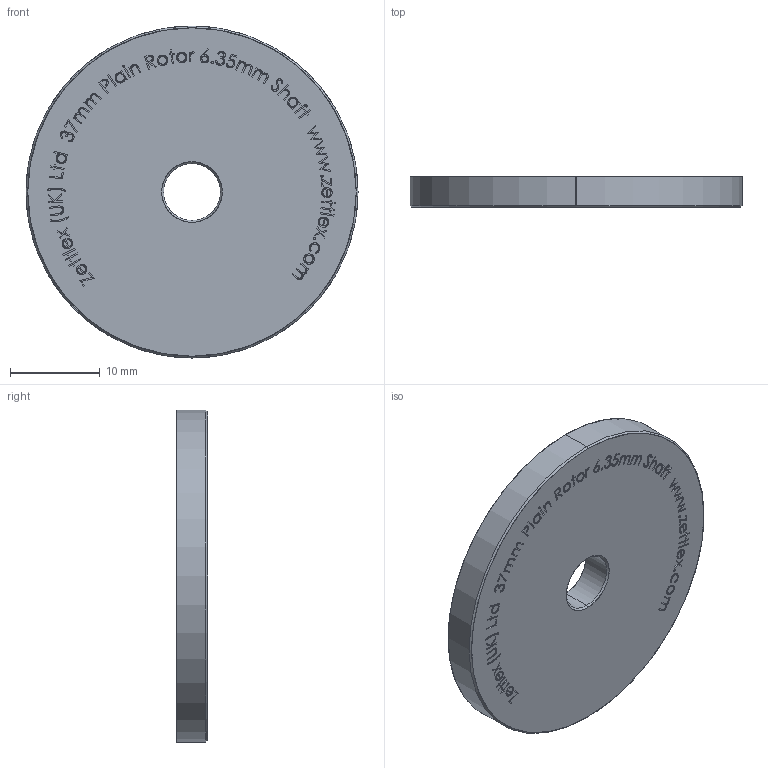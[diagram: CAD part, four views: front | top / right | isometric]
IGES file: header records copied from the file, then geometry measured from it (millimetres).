
Start section: SolidWorks IGES file using analytic representation for surfaces
Global section: file name: C:\Zettlex Data\Mechanical Drawings\4114\37mm Plain Rotor 6.35mm Shaft Rev 1-0.IGS; native system: SolidWorks 2015; preprocessor: SolidWorks 2015; author: Nigel; date: 150904.162100; units: millimetre
Bounding box: 37 x 3.5 x 37 mm (x, y, z)
Surface area: 2580.8 mm2 (no closed solid volume)
Topology: 0 solids, 0 shells, 728 faces, 7666 edges, 7666 vertices
Faces by surface type: bspline 712, revolution 16
